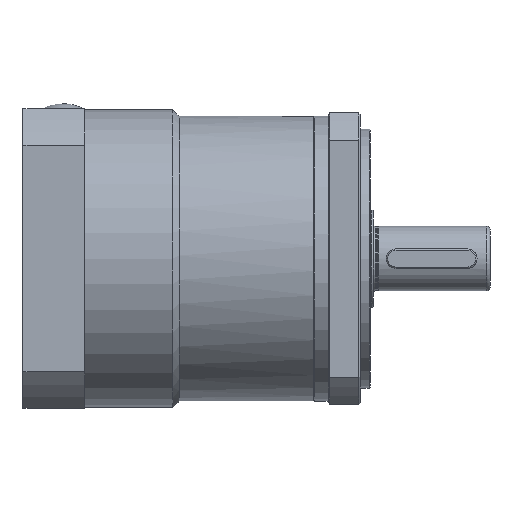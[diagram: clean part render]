
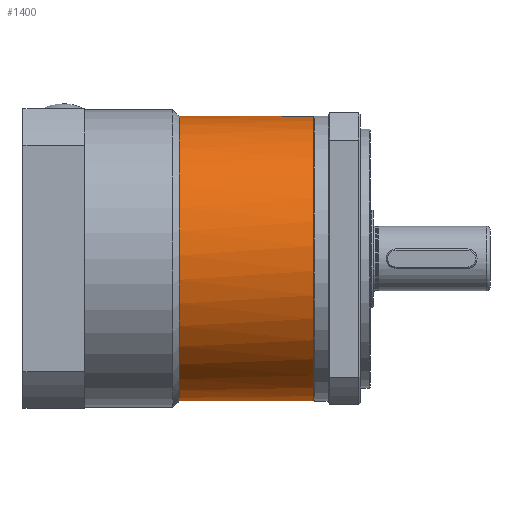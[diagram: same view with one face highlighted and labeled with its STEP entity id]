
A CAD part, front view. The second image highlights one B-rep face of the part: STEP entity #1400.
In plain terms, the highlighted cylindrical face has radius 44 mm (diameter 88 mm), a full revolution.
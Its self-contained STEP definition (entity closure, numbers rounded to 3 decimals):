
#1297=CYLINDRICAL_SURFACE('',#5807,44.);
#1400=ADVANCED_FACE('',(#1891,#1892),#1297,.T.);
#1891=FACE_BOUND('',#2205,.T.);
#1892=FACE_BOUND('',#2206,.T.);
#2205=EDGE_LOOP('',(#2822));
#2206=EDGE_LOOP('',(#2823));
#2822=ORIENTED_EDGE('',*,*,#4741,.T.);
#2823=ORIENTED_EDGE('',*,*,#4742,.F.);
#4220=VERTEX_POINT('',#8354);
#4221=VERTEX_POINT('',#8357);
#4741=EDGE_CURVE('',#4220,#4220,#5451,.T.);
#4742=EDGE_CURVE('',#4221,#4221,#5452,.T.);
#5451=CIRCLE('',#5804,44.);
#5452=CIRCLE('',#5806,44.);
#5804=AXIS2_PLACEMENT_3D('',#8353,#6604,#6605);
#5806=AXIS2_PLACEMENT_3D('',#8356,#6608,#6609);
#5807=AXIS2_PLACEMENT_3D('',#8358,#6610,#6611);
#6604=DIRECTION('',(-1.,0.,0.));
#6605=DIRECTION('',(0.,0.259,0.966));
#6608=DIRECTION('',(-1.,0.,0.));
#6609=DIRECTION('',(0.,0.,1.));
#6610=DIRECTION('',(-1.,0.,0.));
#6611=DIRECTION('',(0.,0.259,0.966));
#8353=CARTESIAN_POINT('',(90.,0.,0.));
#8354=CARTESIAN_POINT('',(90.,11.388,42.501));
#8356=CARTESIAN_POINT('',(48.5,0.,0.));
#8357=CARTESIAN_POINT('',(48.5,0.,44.));
#8358=CARTESIAN_POINT('',(52.5,0.,0.));
